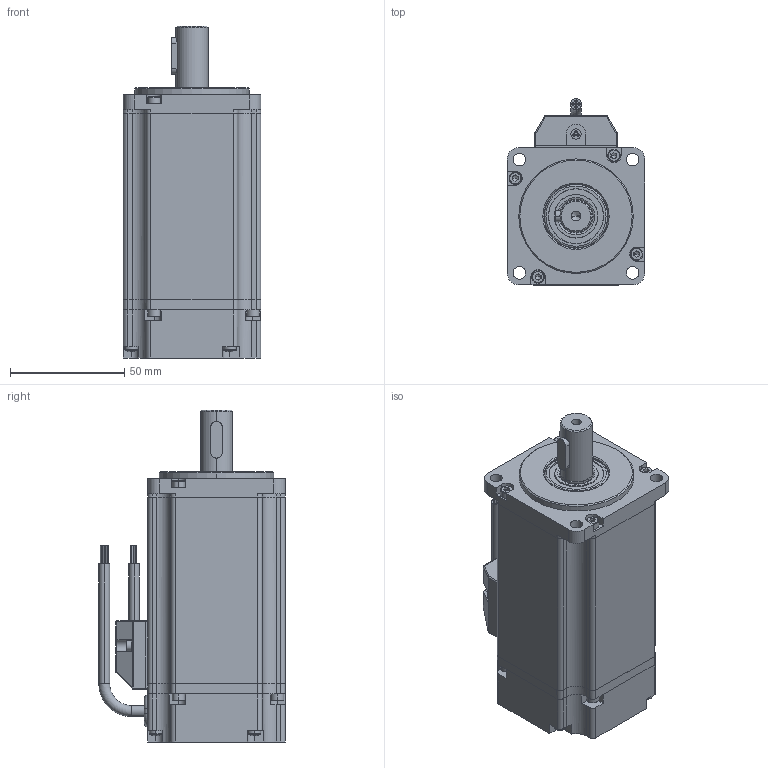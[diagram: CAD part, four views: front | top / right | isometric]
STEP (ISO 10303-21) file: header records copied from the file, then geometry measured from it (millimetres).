
FILE_DESCRIPTION (( 'STEP AP214' ), '1' );
FILE_NAME ('BLF60S-040 - 400W single shaft.STEP', '2024-09-11T18:39:50', ( '' ), ( '' ), 'SwSTEP 2.0', 'SolidWorks 2020', '' );
FILE_SCHEMA (( 'AUTOMOTIVE_DESIGN' ));
Length unit declared in the file: millimetre
Products named in the file (5): socket head cap screw_am_B18.3.1M - 2.5 x 0.45 x 10 Hex SHCS -- 10SHX; socket head cap screw_am_B18.3.1M - 3 x 0.5 x 8 Hex SHCS -- 8SHX; BLF60S-040 - 400W single shaft; pan cross head_am_B18.6.7M - M3 x 0.5 x 20 Type I Cross Recessed PHMS --20N; BLF60D-0X0 - X00W D-S shaft_BLF60D-020-200W Dual shaft
Assembly tree (15 placements, depth 2):
  BLF60S-040 - 400W single shaft
    BLF60D-0X0 - X00W D-S shaft_BLF60D-020-200W Dual shaft
    socket head cap screw_am_B18.3.1M - 3 x 0.5 x 8 Hex SHCS -- 8SHX  x8
    socket head cap screw_am_B18.3.1M - 2.5 x 0.45 x 10 Hex SHCS -- 10SHX  x2
    pan cross head_am_B18.6.7M - M3 x 0.5 x 20 Type I Cross Recessed PHMS --20N  x4
Bounding box: 60 x 81.42 x 145 mm (x, y, z)
Volume: 396294.4 mm3; surface area: 43568.7 mm2
Topology: 15 solids, 15 shells, 1687 faces, 4234 edges, 2595 vertices
Faces by surface type: cone 724, cylinder 541, plane 361, torus 39, sphere 14, bspline 8
Entity records: 19571 total; most frequent: CARTESIAN_POINT 3857, DIRECTION 3489, ORIENTED_EDGE 3148, EDGE_CURVE 1574, AXIS2_PLACEMENT_3D 1367, VERTEX_POINT 971, LINE 755, VECTOR 755
